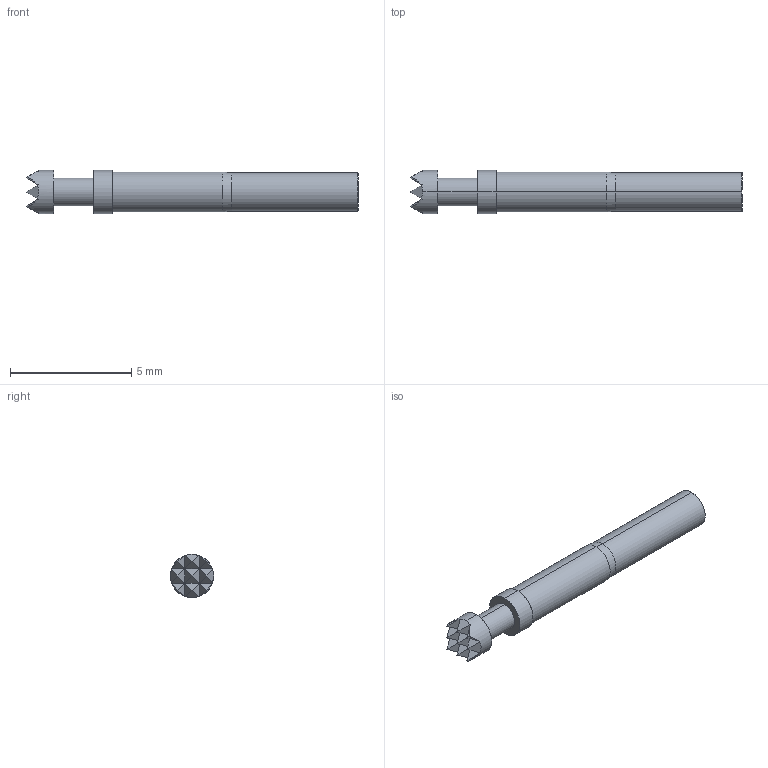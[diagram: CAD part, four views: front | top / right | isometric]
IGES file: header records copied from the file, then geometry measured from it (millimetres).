
Start section: SolidWorks IGES file using analytic representation for surfaces
Global section: file name: O:\PYLON\IGES FILES\E-S\E-S-W.IGS; native system: SolidWorks 2015; preprocessor: SolidWorks 2015; author: kgolden; date: 171024.084712; units: inch
Bounding box: 13.72 x 1.78 x 1.78 mm (x, y, z)
Surface area: 85.4 mm2 (no closed solid volume)
Topology: 0 solids, 0 shells, 55 faces, 414 edges, 414 vertices
Faces by surface type: bspline 41, revolution 14
